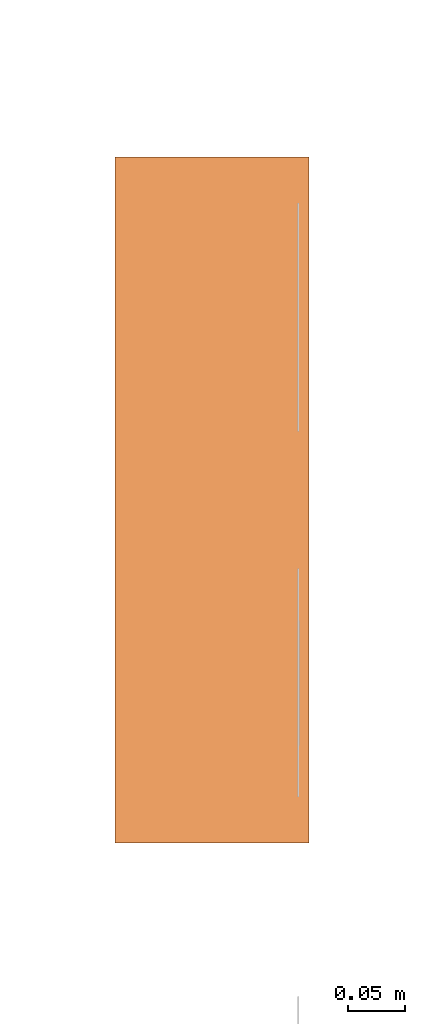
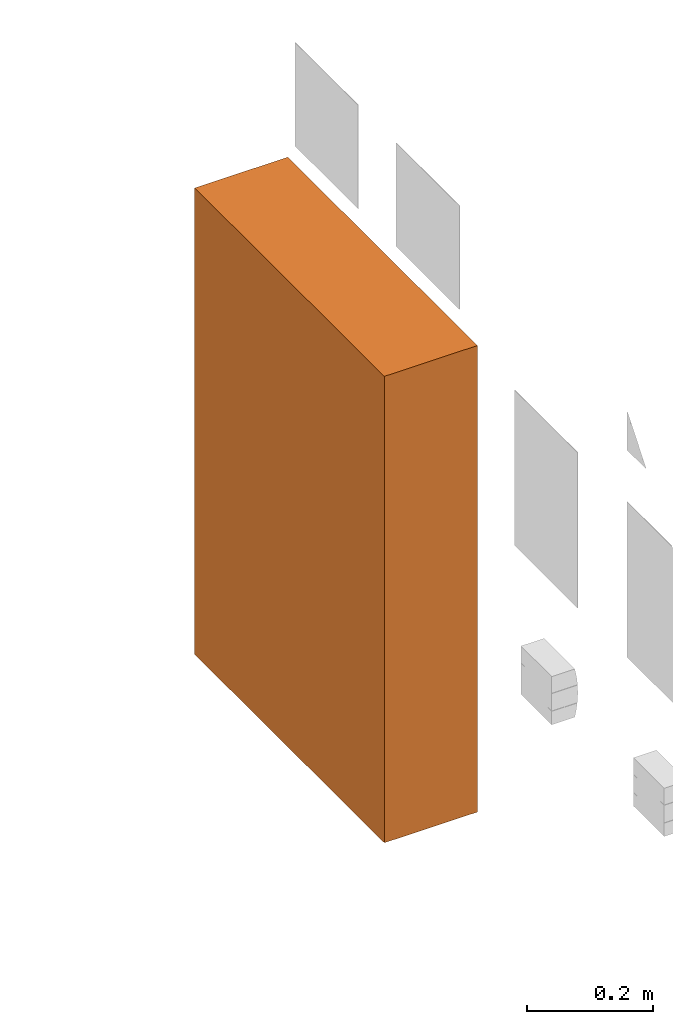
# One storey, part 14 of 119: 1 proxy.
"""IFC2X3 building model written with IfcOpenShell, lengths in metres."""

from ifc_helpers import new_model, entity, si_unit, converted_unit, derived_unit, direction, frame, origin, place, context, subcontext, project, spatial, face_set, surface_model, source, transform, mapped, material, material_list, type_object, type_shapes, element, save


model = new_model("IFC2X3")

# Units and contexts
model_context = context("Model", 3, precision=1e-05, world=origin(), true_north=direction((6.12303176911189e-17, 1.0)))
body_context = subcontext(model_context, "Body", "Model", "MODEL_VIEW")
ifc_project = project(units=[si_unit("LENGTHUNIT", "METRE"), si_unit("AREAUNIT", "SQUARE_METRE"), si_unit("VOLUMEUNIT", "CUBIC_METRE"), converted_unit("PLANEANGLEUNIT", "DEGREE", entity("IfcRatioMeasure", 0.0174532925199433), si_unit("PLANEANGLEUNIT", "RADIAN"), dimensions=[0, 0, 0, 0, 0, 0, 0]), si_unit("MASSUNIT", "GRAM", prefix="KILO"), derived_unit("MASSDENSITYUNIT", [(si_unit("MASSUNIT", "GRAM", prefix="KILO"), 1), (si_unit("LENGTHUNIT", "METRE"), -3)]), derived_unit("MOMENTOFINERTIAUNIT", [(si_unit("LENGTHUNIT", "METRE"), 4)]), si_unit("TIMEUNIT", "SECOND"), si_unit("FREQUENCYUNIT", "HERTZ"), si_unit("THERMODYNAMICTEMPERATUREUNIT", "DEGREE_CELSIUS"), derived_unit("THERMALTRANSMITTANCEUNIT", [(si_unit("MASSUNIT", "GRAM", prefix="KILO"), 1), (si_unit("THERMODYNAMICTEMPERATUREUNIT", "KELVIN"), -1), (si_unit("TIMEUNIT", "SECOND"), -3)]), derived_unit("VOLUMETRICFLOWRATEUNIT", [(si_unit("LENGTHUNIT", "METRE"), 3), (si_unit("TIMEUNIT", "SECOND"), -1)]), si_unit("ELECTRICCURRENTUNIT", "AMPERE"), si_unit("ELECTRICVOLTAGEUNIT", "VOLT"), si_unit("POWERUNIT", "WATT"), si_unit("FORCEUNIT", "NEWTON", prefix="KILO"), si_unit("ILLUMINANCEUNIT", "LUX"), si_unit("LUMINOUSFLUXUNIT", "LUMEN"), si_unit("LUMINOUSINTENSITYUNIT", "CANDELA"), derived_unit("USERDEFINED", [(si_unit("MASSUNIT", "GRAM", prefix="KILO"), -1), (si_unit("LENGTHUNIT", "METRE"), -2), (si_unit("TIMEUNIT", "SECOND"), 3), (si_unit("LUMINOUSFLUXUNIT", "LUMEN"), 1)]), derived_unit("LINEARVELOCITYUNIT", [(si_unit("LENGTHUNIT", "METRE"), 1), (si_unit("TIMEUNIT", "SECOND"), -1)]), si_unit("PRESSUREUNIT", "PASCAL"), derived_unit("USERDEFINED", [(si_unit("LENGTHUNIT", "METRE"), -2), (si_unit("MASSUNIT", "GRAM", prefix="KILO"), 1), (si_unit("TIMEUNIT", "SECOND"), -2)]), derived_unit("LINEARFORCEUNIT", [(si_unit("MASSUNIT", "GRAM", prefix="KILO"), 1), (si_unit("LENGTHUNIT", "METRE"), 1), (si_unit("TIMEUNIT", "SECOND"), -2), (si_unit("LENGTHUNIT", "METRE"), -1)]), derived_unit("PLANARFORCEUNIT", [(si_unit("MASSUNIT", "GRAM", prefix="KILO"), 1), (si_unit("LENGTHUNIT", "METRE"), 1), (si_unit("TIMEUNIT", "SECOND"), -2), (si_unit("LENGTHUNIT", "METRE"), -2)])], contexts=[model_context])

# Site, building, storey
site_placement = place(None, origin())
site = spatial("IfcSite", under=ifc_project, at=site_placement, Name="Default", CompositionType="ELEMENT")
building_placement = place(site_placement, origin())
building = spatial("IfcBuilding", under=site, at=building_placement, CompositionType="ELEMENT")
storey_placement = place(building_placement, origin())
storey = spatial("IfcBuildingStorey", under=building, at=storey_placement, Name="PAV. 01 - TÉRREO", CompositionType="ELEMENT", Elevation=0.0)

# Proxy
ifc_material_1 = material(Name="Pintura branca")
ifc_material_2 = material(Name="Vidro")
ifc_material_3 = material(Name="Pintura Metalica Vermelha")
ifc_material_list_1 = material_list([ifc_material_1, ifc_material_2, ifc_material_3])
ifc_material_list_2 = material_list([ifc_material_3, ifc_material_1])
building_element_proxy_type = type_object("IfcBuildingElementProxyType", Name="Equipamento - E07 - Hidrante:Hidrante simples embutido - requinte 2.1/2 - 38 mm - 30m", PredefinedType="NOTDEFINED", material=ifc_material_list_2)
shared_shape = source(origin(), body_context, "Body", "SurfaceModel", [
    surface_model("IfcFaceBasedSurfaceModel", [(0.234125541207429, 0.00999999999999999, 0.69041529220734), (0.236636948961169, 0.00999999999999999, 0.69041529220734), (0.236636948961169, 0.00999999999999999, 0.710506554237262), (0.234125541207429, 0.00999999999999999, 0.710506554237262), (0.241659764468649, 0.00999999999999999, 0.69041529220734), (0.244171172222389, 0.00999999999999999, 0.69041529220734), (0.244171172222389, 0.00999999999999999, 0.706337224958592), (0.254668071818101, 0.00999999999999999, 0.69041529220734), (0.257356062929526, 0.00999999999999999, 0.69041529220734), (0.257356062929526, 0.00999999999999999, 0.710506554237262), (0.254844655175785, 0.00999999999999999, 0.710506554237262), (0.254844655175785, 0.00999999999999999, 0.69458952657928), (0.244347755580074, 0.00999999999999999, 0.710506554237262), (0.241659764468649, 0.00999999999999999, 0.710506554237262), (0.27587769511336, 0.00999999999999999, 0.697557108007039), (0.273746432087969, 0.00999999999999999, 0.693858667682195), (0.269903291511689, 0.00999999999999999, 0.692612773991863), (0.266437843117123, 0.00999999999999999, 0.693527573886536), (0.264078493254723, 0.00999999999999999, 0.696291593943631), (0.263320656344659, 0.00999999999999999, 0.70061788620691), (0.263960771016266, 0.00999999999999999, 0.704350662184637), (0.2661803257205, 0.00999999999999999, 0.707234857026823), (0.270109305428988, 0.00999999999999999, 0.708309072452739), (0.273503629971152, 0.00999999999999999, 0.707340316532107), (0.275563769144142, 0.00999999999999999, 0.704252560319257), (0.278075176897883, 0.00999999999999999, 0.704850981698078), (0.275237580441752, 0.00999999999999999, 0.709255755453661), (0.270207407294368, 0.00999999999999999, 0.71082048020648), (0.265380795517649, 0.00999999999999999, 0.709611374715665), (0.261998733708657, 0.00999999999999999, 0.706072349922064), (0.260809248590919, 0.00999999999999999, 0.700612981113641), (0.261861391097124, 0.00999999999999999, 0.69524190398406), (0.264927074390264, 0.00999999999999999, 0.69142083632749), (0.270153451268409, 0.00999999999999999, 0.690101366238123), (0.275411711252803, 0.00999999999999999, 0.691845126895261), (0.2783891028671, 0.00999999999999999, 0.696909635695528), (0.289376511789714, 0.00999999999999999, 0.714273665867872), (0.29110310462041, 0.00999999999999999, 0.711762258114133), (0.29361451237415, 0.00999999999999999, 0.711762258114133), (0.290632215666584, 0.00999999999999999, 0.715529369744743), (0.288120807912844, 0.00999999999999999, 0.715529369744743), (0.285452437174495, 0.00999999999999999, 0.711762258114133), (0.287963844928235, 0.00999999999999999, 0.711762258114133), (0.300363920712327, 0.00999999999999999, 0.69041529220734), (0.302875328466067, 0.00999999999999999, 0.69041529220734), (0.302875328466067, 0.00999999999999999, 0.706337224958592), (0.313372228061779, 0.00999999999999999, 0.69041529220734), (0.316060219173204, 0.00999999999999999, 0.69041529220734), (0.316060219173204, 0.00999999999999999, 0.710506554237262), (0.313548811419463, 0.00999999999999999, 0.710506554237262), (0.313548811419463, 0.00999999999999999, 0.69458952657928), (0.303051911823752, 0.00999999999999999, 0.710506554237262), (0.300363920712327, 0.00999999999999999, 0.710506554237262), (0.320455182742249, 0.00999999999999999, 0.69041529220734), (0.327719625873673, 0.00999999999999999, 0.69041529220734), (0.330949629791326, 0.00999999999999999, 0.690758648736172), (0.333350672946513, 0.00999999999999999, 0.691766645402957), (0.335185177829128, 0.00999999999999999, 0.693588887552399), (0.336558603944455, 0.00999999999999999, 0.696514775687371), (0.337093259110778, 0.00999999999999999, 0.70056883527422), (0.336303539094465, 0.00999999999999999, 0.705346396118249), (0.333924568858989, 0.00999999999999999, 0.708779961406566), (0.330971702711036, 0.00999999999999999, 0.71021715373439), (0.32738607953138, 0.00999999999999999, 0.710506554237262), (0.320455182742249, 0.00999999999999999, 0.710506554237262), (0.322966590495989, 0.00999999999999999, 0.692926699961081), (0.322966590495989, 0.00999999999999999, 0.707995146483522), (0.327341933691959, 0.00999999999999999, 0.707995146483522), (0.33090303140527, 0.00999999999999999, 0.707592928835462), (0.333510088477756, 0.00999999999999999, 0.705366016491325), (0.334581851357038, 0.00999999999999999, 0.700608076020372), (0.334034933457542, 0.00999999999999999, 0.696809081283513), (0.332506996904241, 0.00999999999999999, 0.694314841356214), (0.330643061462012, 0.00999999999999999, 0.693289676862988), (0.327410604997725, 0.00999999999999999, 0.692926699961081), (0.340860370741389, 0.00999999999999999, 0.69041529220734), (0.343371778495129, 0.00999999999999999, 0.69041529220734), (0.343371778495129, 0.00999999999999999, 0.710506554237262), (0.340860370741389, 0.00999999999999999, 0.710506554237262), (0.347452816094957, 0.00999999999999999, 0.700196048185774), (0.348600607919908, 0.00999999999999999, 0.695195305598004), (0.351975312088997, 0.00999999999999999, 0.691467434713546), (0.357027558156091, 0.00999999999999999, 0.690101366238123), (0.361890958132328, 0.00999999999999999, 0.691337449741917), (0.365373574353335, 0.00999999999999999, 0.694977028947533), (0.366602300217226, 0.00999999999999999, 0.700426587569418), (0.365434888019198, 0.00999999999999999, 0.705802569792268), (0.362040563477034, 0.00999999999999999, 0.709496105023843), (0.357042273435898, 0.00999999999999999, 0.71082048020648), (0.350130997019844, 0.00999999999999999, 0.708000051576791), (0.349964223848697, 0.00999999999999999, 0.700171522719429), (0.35205869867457, 0.00999999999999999, 0.706432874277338), (0.357056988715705, 0.00999999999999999, 0.708309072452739), (0.360743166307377, 0.00999999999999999, 0.707335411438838), (0.363237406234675, 0.00999999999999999, 0.704591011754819), (0.364090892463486, 0.00999999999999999, 0.700446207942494), (0.362096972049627, 0.00999999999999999, 0.694653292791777), (0.357012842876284, 0.00999999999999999, 0.692612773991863), (0.351972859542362, 0.00999999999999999, 0.694633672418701), (0.281842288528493, 0.00999999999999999, 0.69041529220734), (0.296596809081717, 0.00999999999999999, 0.69041529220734), (0.296596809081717, 0.00999999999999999, 0.692926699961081), (0.284353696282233, 0.00999999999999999, 0.692926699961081), (0.284353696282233, 0.00999999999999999, 0.699519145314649), (0.295655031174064, 0.00999999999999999, 0.699519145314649), (0.295655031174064, 0.00999999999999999, 0.702030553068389), (0.284353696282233, 0.00999999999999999, 0.702030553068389), (0.284353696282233, 0.00999999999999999, 0.707995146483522), (0.296282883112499, 0.00999999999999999, 0.707995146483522), (0.296282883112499, 0.00999999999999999, 0.710506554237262), (0.281842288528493, 0.00999999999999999, 0.710506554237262)], [face_set([[[0, 1, 2, 3]]]), face_set([[[4, 5, 6, 7, 8, 9, 10, 11, 12, 13]]]), face_set([[[14, 15, 16, 17, 18, 19, 20, 21, 22, 23, 24, 25, 26, 27, 28, 29, 30, 31, 32, 33, 34, 35]]]), face_set([[[36, 37, 38, 39, 40, 41, 42]]]), face_set([[[43, 44, 45, 46, 47, 48, 49, 50, 51, 52]]]), face_set([[[53, 54, 55, 56, 57, 58, 59, 60, 61, 62, 63, 64], [65, 66, 67, 68, 69, 70, 71, 72, 73, 74]]]), face_set([[[75, 76, 77, 78]]]), face_set([[[79, 80, 81, 82, 83, 84, 85, 86, 87, 88, 89], [90, 91, 92, 93, 94, 95, 96, 97, 98]]]), face_set([[[99, 100, 101, 102, 103, 104, 105, 106, 107, 108, 109, 110]]])]),
    surface_model("IfcFaceBasedSurfaceModel", [(0.375000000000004, 0.0, 0.700857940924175), (0.372444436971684, 0.0, 0.681446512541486), (0.364951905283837, 0.0, 0.663357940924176), (0.353033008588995, 0.0, 0.647824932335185), (0.337500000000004, 0.0, 0.635906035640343), (0.319411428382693, 0.0, 0.628413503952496), (0.300000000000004, 0.0, 0.625857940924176), (0.280588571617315, 0.0, 0.628413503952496), (0.262500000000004, 0.0, 0.635906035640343), (0.246966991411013, 0.0, 0.647824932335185), (0.235048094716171, 0.0, 0.663357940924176), (0.227555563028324, 0.0, 0.681446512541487), (0.225000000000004, 0.0, 0.700857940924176), (0.227555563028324, 0.0, 0.720269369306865), (0.235048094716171, 0.0, 0.738357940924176), (0.246966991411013, 0.0, 0.753890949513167), (0.262500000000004, 0.0, 0.765809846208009), (0.280588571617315, 0.0, 0.773302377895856), (0.300000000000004, 0.0, 0.775857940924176), (0.319411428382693, 0.0, 0.773302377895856), (0.337500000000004, 0.0, 0.765809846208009), (0.353033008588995, 0.0, 0.753890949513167), (0.364951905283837, 0.0, 0.738357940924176), (0.372444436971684, 0.0, 0.720269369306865), (0.375000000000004, 0.00999999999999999, 0.700857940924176), (0.372444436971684, 0.00999999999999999, 0.681446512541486), (0.364951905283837, 0.00999999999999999, 0.663357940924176), (0.353033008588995, 0.00999999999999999, 0.647824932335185), (0.337500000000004, 0.00999999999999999, 0.635906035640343), (0.319411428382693, 0.00999999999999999, 0.628413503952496), (0.300000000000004, 0.00999999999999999, 0.625857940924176), (0.280588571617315, 0.00999999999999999, 0.628413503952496), (0.262500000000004, 0.00999999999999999, 0.635906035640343), (0.246966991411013, 0.00999999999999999, 0.647824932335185), (0.235048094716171, 0.00999999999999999, 0.663357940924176), (0.227555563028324, 0.00999999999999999, 0.681446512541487), (0.225000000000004, 0.00999999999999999, 0.700857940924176), (0.227555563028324, 0.00999999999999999, 0.720269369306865), (0.235048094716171, 0.00999999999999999, 0.738357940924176), (0.246966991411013, 0.00999999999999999, 0.753890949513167), (0.262500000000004, 0.00999999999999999, 0.765809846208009), (0.280588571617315, 0.00999999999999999, 0.773302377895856), (0.300000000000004, 0.00999999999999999, 0.775857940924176), (0.319411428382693, 0.00999999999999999, 0.773302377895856), (0.337500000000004, 0.00999999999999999, 0.765809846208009), (0.353033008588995, 0.00999999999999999, 0.753890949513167), (0.364951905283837, 0.00999999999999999, 0.738357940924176), (0.372444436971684, 0.00999999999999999, 0.720269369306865)], [face_set([[[0, 1, 2, 3, 4, 5, 6, 7, 8, 9, 10, 11, 12, 13, 14, 15, 16, 17, 18, 19, 20, 21, 22, 23]], [[24, 25, 26, 27, 28, 29, 30, 31, 32, 33, 34, 35, 36, 37, 38, 39, 40, 41, 42, 43, 44, 45, 46, 47]], [[36, 35, 11, 12]], [[35, 34, 10, 11]], [[33, 32, 8, 9]], [[34, 33, 9, 10]], [[32, 31, 7, 8]], [[6, 7, 31, 30]], [[30, 29, 5, 6]], [[29, 28, 4, 5]], [[27, 26, 2, 3]], [[28, 27, 3, 4]], [[26, 25, 1, 2]], [[0, 1, 25, 24]], [[24, 47, 23, 0]], [[47, 46, 22, 23]], [[45, 44, 20, 21]], [[46, 45, 21, 22]], [[44, 43, 19, 20]], [[18, 19, 43, 42]], [[42, 41, 17, 18]], [[41, 40, 16, 17]], [[39, 38, 14, 15]], [[40, 39, 15, 16]], [[38, 37, 13, 14]], [[12, 13, 37, 36]]])]),
    surface_model("IfcFaceBasedSurfaceModel", [(0.567500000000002, 0.0, 0.868357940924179), (0.567500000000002, 0.0, 0.0333579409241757), (0.032500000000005, 0.0, 0.0333579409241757), (0.032500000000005, 0.0, 0.868357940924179), (0.375000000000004, 0.0, 0.700857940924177), (0.372444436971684, 0.0, 0.681446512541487), (0.364951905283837, 0.0, 0.663357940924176), (0.353033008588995, 0.0, 0.647824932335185), (0.337500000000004, 0.0, 0.635906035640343), (0.319411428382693, 0.0, 0.628413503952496), (0.300000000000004, 0.0, 0.625857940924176), (0.280588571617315, 0.0, 0.628413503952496), (0.262500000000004, 0.0, 0.635906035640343), (0.246966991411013, 0.0, 0.647824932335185), (0.235048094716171, 0.0, 0.663357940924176), (0.227555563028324, 0.0, 0.681446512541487), (0.225000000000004, 0.0, 0.700857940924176), (0.227555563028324, 0.0, 0.720269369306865), (0.235048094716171, 0.0, 0.738357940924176), (0.246966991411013, 0.0, 0.753890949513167), (0.262500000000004, 0.0, 0.765809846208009), (0.280588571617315, 0.0, 0.773302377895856), (0.300000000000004, 0.0, 0.775857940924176), (0.319411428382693, 0.0, 0.773302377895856), (0.337500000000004, 0.0, 0.765809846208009), (0.353033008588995, 0.0, 0.753890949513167), (0.364951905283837, 0.0, 0.738357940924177), (0.372444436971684, 0.0, 0.720269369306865), (0.285000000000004, 0.0, 0.162857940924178), (0.220000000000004, 0.0, 0.162857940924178), (0.220000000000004, 0.0, 0.160857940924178), (0.285000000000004, 0.0, 0.160857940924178), (0.285000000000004, 0.0, 0.122857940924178), (0.220000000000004, 0.0, 0.122857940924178), (0.220000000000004, 0.0, 0.120857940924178), (0.285000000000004, 0.0, 0.120857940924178), (0.285000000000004, 0.0, 0.142857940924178), (0.220000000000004, 0.0, 0.142857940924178), (0.220000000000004, 0.0, 0.140857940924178), (0.285000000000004, 0.0, 0.140857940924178), (0.380000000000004, 0.0, 0.162857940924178), (0.315000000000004, 0.0, 0.162857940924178), (0.315000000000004, 0.0, 0.160857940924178), (0.380000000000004, 0.0, 0.160857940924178), (0.380000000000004, 0.0, 0.122857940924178), (0.315000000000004, 0.0, 0.122857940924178), (0.315000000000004, 0.0, 0.120857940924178), (0.380000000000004, 0.0, 0.120857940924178), (0.380000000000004, 0.0, 0.142857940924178), (0.315000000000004, 0.0, 0.142857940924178), (0.315000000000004, 0.0, 0.140857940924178), (0.380000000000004, 0.0, 0.140857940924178), (0.567500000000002, 0.00999999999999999, 0.868357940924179), (0.567500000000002, 0.00999999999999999, 0.0333579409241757), (0.032500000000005, 0.00999999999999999, 0.0333579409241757), (0.032500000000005, 0.00999999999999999, 0.868357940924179), (0.375000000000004, 0.00999999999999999, 0.700857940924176), (0.372444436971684, 0.00999999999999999, 0.681446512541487), (0.364951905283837, 0.00999999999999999, 0.663357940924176), (0.353033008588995, 0.00999999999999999, 0.647824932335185), (0.337500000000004, 0.00999999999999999, 0.635906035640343), (0.319411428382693, 0.00999999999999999, 0.628413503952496), (0.300000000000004, 0.00999999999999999, 0.625857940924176), (0.280588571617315, 0.00999999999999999, 0.628413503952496), (0.262500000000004, 0.00999999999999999, 0.635906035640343), (0.246966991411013, 0.00999999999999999, 0.647824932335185), (0.235048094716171, 0.00999999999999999, 0.663357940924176), (0.227555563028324, 0.00999999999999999, 0.681446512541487), (0.225000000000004, 0.00999999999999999, 0.700857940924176), (0.227555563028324, 0.00999999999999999, 0.720269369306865), (0.235048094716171, 0.00999999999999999, 0.738357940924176), (0.246966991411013, 0.00999999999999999, 0.753890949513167), (0.262500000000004, 0.00999999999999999, 0.765809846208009), (0.280588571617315, 0.00999999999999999, 0.773302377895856), (0.300000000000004, 0.00999999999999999, 0.775857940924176), (0.319411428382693, 0.00999999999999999, 0.773302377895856), (0.337500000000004, 0.00999999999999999, 0.765809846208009), (0.353033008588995, 0.00999999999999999, 0.753890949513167), (0.364951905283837, 0.00999999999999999, 0.738357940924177), (0.372444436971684, 0.00999999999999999, 0.720269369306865), (0.285000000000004, 0.00999999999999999, 0.162857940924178), (0.220000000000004, 0.00999999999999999, 0.162857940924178), (0.220000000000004, 0.00999999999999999, 0.160857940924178), (0.285000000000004, 0.00999999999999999, 0.160857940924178), (0.285000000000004, 0.00999999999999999, 0.122857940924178), (0.220000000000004, 0.00999999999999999, 0.122857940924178), (0.220000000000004, 0.00999999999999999, 0.120857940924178), (0.285000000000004, 0.00999999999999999, 0.120857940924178), (0.285000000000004, 0.00999999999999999, 0.142857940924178), (0.220000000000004, 0.00999999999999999, 0.142857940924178), (0.220000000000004, 0.00999999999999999, 0.140857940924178), (0.285000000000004, 0.00999999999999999, 0.140857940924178), (0.380000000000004, 0.00999999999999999, 0.162857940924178), (0.315000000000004, 0.00999999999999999, 0.162857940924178), (0.315000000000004, 0.00999999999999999, 0.160857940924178), (0.380000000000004, 0.00999999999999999, 0.160857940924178), (0.380000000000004, 0.00999999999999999, 0.122857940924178), (0.315000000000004, 0.00999999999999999, 0.122857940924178), (0.315000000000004, 0.00999999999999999, 0.120857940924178), (0.380000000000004, 0.00999999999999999, 0.120857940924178), (0.380000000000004, 0.00999999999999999, 0.142857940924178), (0.315000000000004, 0.00999999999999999, 0.142857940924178), (0.315000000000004, 0.00999999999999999, 0.140857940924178), (0.380000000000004, 0.00999999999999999, 0.140857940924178), (0.010000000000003, 0.160000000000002, 0.890857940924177), (0.010000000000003, 0.160000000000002, 0.0108579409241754), (0.590000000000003, 0.160000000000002, 0.0108579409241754), (0.590000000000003, 0.160000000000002, 0.890857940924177), (0.6, 0.170000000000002, 0.900857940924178), (0.0, 0.170000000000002, 0.900857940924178), (0.0, 0.170000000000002, 0.0), (0.6, 0.170000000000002, 0.0), (0.6, 0.0, 0.900857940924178), (0.0, 0.0, 0.900857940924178), (0.0, 0.0, 0.0), (0.6, 0.0, 0.0), (0.010000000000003, 0.0100000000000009, 0.0108579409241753), (0.010000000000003, 0.0100000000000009, 0.890857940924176), (0.590000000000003, 0.0100000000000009, 0.890857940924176), (0.590000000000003, 0.0100000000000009, 0.0108579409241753), (0.5675, 0.0, 0.868357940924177), (0.5675, 0.0, 0.0333579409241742), (0.0325000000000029, 0.0, 0.0333579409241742), (0.0325000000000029, 0.0, 0.868357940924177), (0.5675, 0.0100000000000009, 0.868357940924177), (0.5675, 0.0100000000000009, 0.0333579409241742), (0.0325000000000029, 0.0100000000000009, 0.0333579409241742), (0.0325000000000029, 0.0100000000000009, 0.868357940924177)], [face_set([[[0, 1, 2, 3], [4, 5, 6, 7, 8, 9, 10, 11, 12, 13, 14, 15, 16, 17, 18, 19, 20, 21, 22, 23, 24, 25, 26, 27], [28, 29, 30, 31], [32, 33, 34, 35], [36, 37, 38, 39], [40, 41, 42, 43], [44, 45, 46, 47], [48, 49, 50, 51]], [[52, 53, 54, 55], [56, 57, 58, 59, 60, 61, 62, 63, 64, 65, 66, 67, 68, 69, 70, 71, 72, 73, 74, 75, 76, 77, 78, 79], [80, 81, 82, 83], [84, 85, 86, 87], [88, 89, 90, 91], [92, 93, 94, 95], [96, 97, 98, 99], [100, 101, 102, 103]], [[0, 1, 53, 52]], [[1, 2, 54, 53]], [[2, 54, 55, 3]], [[3, 55, 52, 0]], [[69, 17, 18, 70]], [[68, 16, 17, 69]], [[72, 20, 21, 73]], [[71, 19, 20, 72]], [[70, 18, 19, 71]], [[22, 74, 73, 21]], [[76, 24, 25, 77]], [[75, 23, 24, 76]], [[79, 27, 4, 56]], [[78, 26, 27, 79]], [[77, 25, 26, 78]], [[74, 22, 23, 75]], [[56, 4, 5, 57]], [[58, 6, 5, 57]], [[60, 8, 7, 59]], [[59, 7, 6, 58]], [[61, 9, 8, 60]], [[9, 61, 62, 10]], [[64, 12, 11, 63]], [[65, 13, 12, 64]], [[67, 15, 14, 66]], [[66, 14, 13, 65]], [[67, 15, 16, 68]], [[63, 11, 10, 62]], [[31, 83, 80, 28]], [[30, 82, 83, 31]], [[29, 30, 82, 81]], [[28, 29, 81, 80]], [[35, 87, 84, 32]], [[34, 86, 87, 35]], [[33, 34, 86, 85]], [[32, 33, 85, 84]], [[39, 91, 88, 36]], [[38, 90, 91, 39]], [[37, 38, 90, 89]], [[36, 37, 89, 88]], [[43, 95, 92, 40]], [[42, 94, 95, 43]], [[41, 42, 94, 93]], [[40, 41, 93, 92]], [[47, 99, 96, 44]], [[46, 98, 99, 47]], [[45, 46, 98, 97]], [[44, 45, 97, 96]], [[51, 103, 100, 48]], [[50, 102, 103, 51]], [[49, 50, 102, 101]], [[48, 49, 101, 100]]]), face_set([[[104, 105, 106, 107]], [[108, 109, 110, 111]], [[108, 112, 113, 109]], [[113, 109, 110, 114]], [[114, 110, 111, 115]], [[115, 111, 108, 112]], [[116, 105, 104, 117]], [[117, 104, 107, 118]], [[118, 119, 106, 107]], [[105, 106, 119, 116]], [[112, 113, 114, 115], [120, 121, 122, 123]], [[116, 119, 118, 117], [124, 125, 126, 127]], [[121, 125, 124, 120]], [[122, 126, 125, 121]], [[123, 122, 126, 127]], [[120, 123, 127, 124]]])]),
])
type_shapes(building_element_proxy_type, [shared_shape])
proxy_placement = place(storey_placement, frame((18.7840605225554, 29.0371958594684, 0.850000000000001), z_axis=(0.0, 0.0, 1.0), x_axis=(0.0, 1.0, 0.0)))
element("IfcBuildingElementProxy", 1, at=proxy_placement, inside=storey, type_object=building_element_proxy_type, material=ifc_material_list_1, Name="Equipamento - E07 - Hidrante:Hidrante simples embutido - requinte 2.1/2 - 38 mm - 30m", ObjectType="Equipamento - E07 - Hidrante:Hidrante simples embutido - requinte 2.1/2 - 38 mm - 30m", context=body_context, shape_type="MappedRepresentation", body=[
    mapped(shared_shape, transform((0.0, 0.0, 0.0), scale=1.0)),
])

save(model, "model.ifc")
